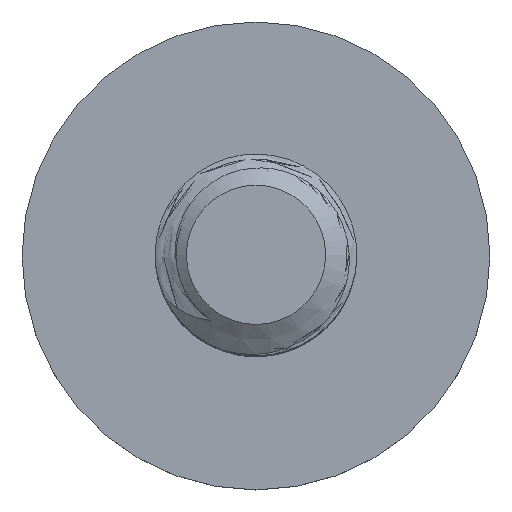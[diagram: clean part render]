
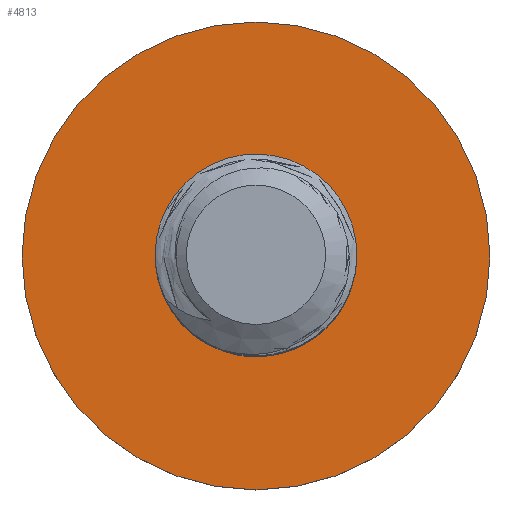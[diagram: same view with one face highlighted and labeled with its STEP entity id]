
A CAD part, top view. The second image highlights one B-rep face of the part: STEP entity #4813.
In plain terms, the highlighted planar face has unit normal (0, 0, 1).
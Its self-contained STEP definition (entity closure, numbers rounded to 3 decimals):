
#665=CARTESIAN_POINT('',(0.,2.5,-16.0));
#666=VERTEX_POINT('',#665);
#4460=CARTESIAN_POINT('',(-1.752,1.784,-16.));
#4461=VERTEX_POINT('',#4460);
#4629=CARTESIAN_POINT('',(0.0,0.0,-16.0));
#4630=DIRECTION('',(0.0,0.0,1.0));
#4631=DIRECTION('',(1.0,0.0,0.0));
#4632=AXIS2_PLACEMENT_3D('',#4629,#4630,#4631);
#4633=CIRCLE('',#4632,2.5);
#4634=EDGE_CURVE('',#666,#4461,#4633,.T.);
#4774=CARTESIAN_POINT('',(0.,0.,-16.0));
#4775=DIRECTION('',(0.0,0.0,1.0));
#4776=DIRECTION('',(-1.0,0.0,0.0));
#4777=AXIS2_PLACEMENT_3D('',#4774,#4775,#4776);
#4778=CIRCLE('',#4777,2.5);
#4779=EDGE_CURVE('',#4461,#666,#4778,.T.);
#4793=CARTESIAN_POINT('',(0.0,0.0,-16.0));
#4794=DIRECTION('',(0.0,0.0,-1.0));
#4795=DIRECTION('',(-1.0,0.0,0.0));
#4796=AXIS2_PLACEMENT_3D('',#4793,#4794,#4795);
#4797=PLANE('',#4796);
#4798=CARTESIAN_POINT('',(5.8,0.0,-16.0));
#4799=VERTEX_POINT('',#4798);
#4800=CARTESIAN_POINT('',(0.0,0.0,-16.0));
#4801=DIRECTION('',(0.0,0.0,1.0));
#4802=DIRECTION('',(1.0,0.0,0.0));
#4803=AXIS2_PLACEMENT_3D('',#4800,#4801,#4802);
#4804=CIRCLE('',#4803,5.8);
#4805=EDGE_CURVE('',#4799,#4799,#4804,.T.);
#4806=ORIENTED_EDGE('',*,*,#4805,.T.);
#4807=EDGE_LOOP('',(#4806));
#4808=FACE_OUTER_BOUND('',#4807,.T.);
#4809=ORIENTED_EDGE('',*,*,#4779,.F.);
#4810=ORIENTED_EDGE('',*,*,#4634,.F.);
#4811=EDGE_LOOP('',(#4809,#4810));
#4812=FACE_BOUND('',#4811,.T.);
#4813=ADVANCED_FACE('',(#4808,#4812),#4797,.F.);
